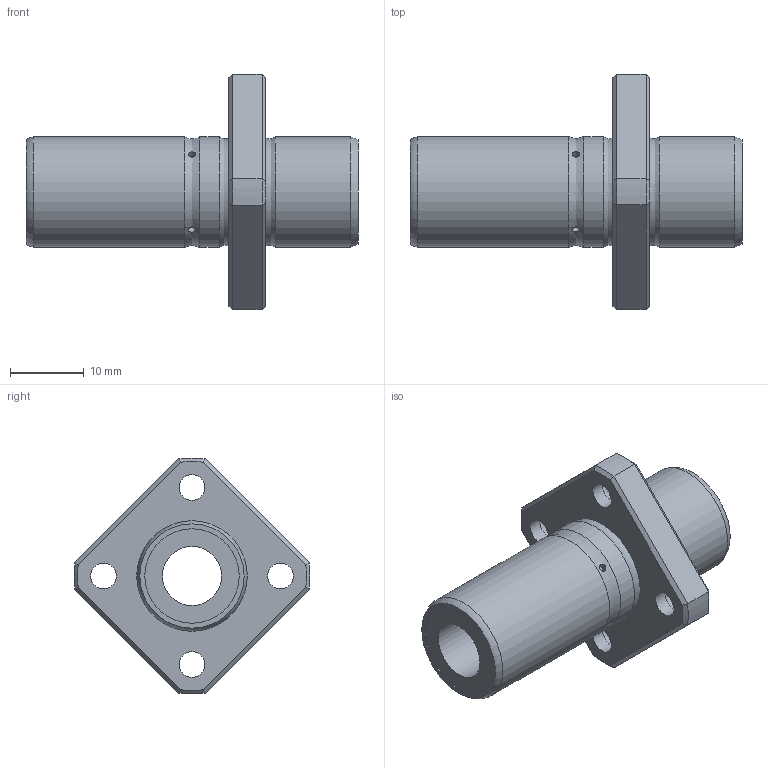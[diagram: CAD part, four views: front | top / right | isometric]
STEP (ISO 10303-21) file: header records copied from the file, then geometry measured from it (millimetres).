
FILE_DESCRIPTION((''),'2;1');
FILE_NAME('D:\製品 (図面)\カタログ用3D\リニアベアリング関連\STEP形式\LFDK-OH\LFDK8-OH.stp','2010-06-03T09:40:01',('Tsuchiya'),(''),'Autodesk Inventor 10','Autodesk Inventor 10','');
FILE_SCHEMA(('AUTOMOTIVE_DESIGN { 1 0 10303 214 1 1 1 1 }'));
Length unit declared in the file: millimetre
Products named in the file (1): LFDK8-OH
Bounding box: 45 x 31.98 x 31.98 mm (x, y, z)
Volume: 7336.3 mm3; surface area: 4805.2 mm2
Topology: 1 solids, 1 shells, 61 faces, 123 edges, 76 vertices
Faces by surface type: bspline 19, plane 18, cylinder 14, cone 8, torus 2
Full cylindrical faces by diameter (mm): 8 x1, 12.8 x2, 15 x3
Entity records: 2123 total; most frequent: CARTESIAN_POINT 1000, DIRECTION 206, ORIENTED_EDGE 192, EDGE_LOOP 106, EDGE_CURVE 96, AXIS2_PLACEMENT_3D 91, VERTEX_POINT 72, FACE_OUTER_BOUND 61
